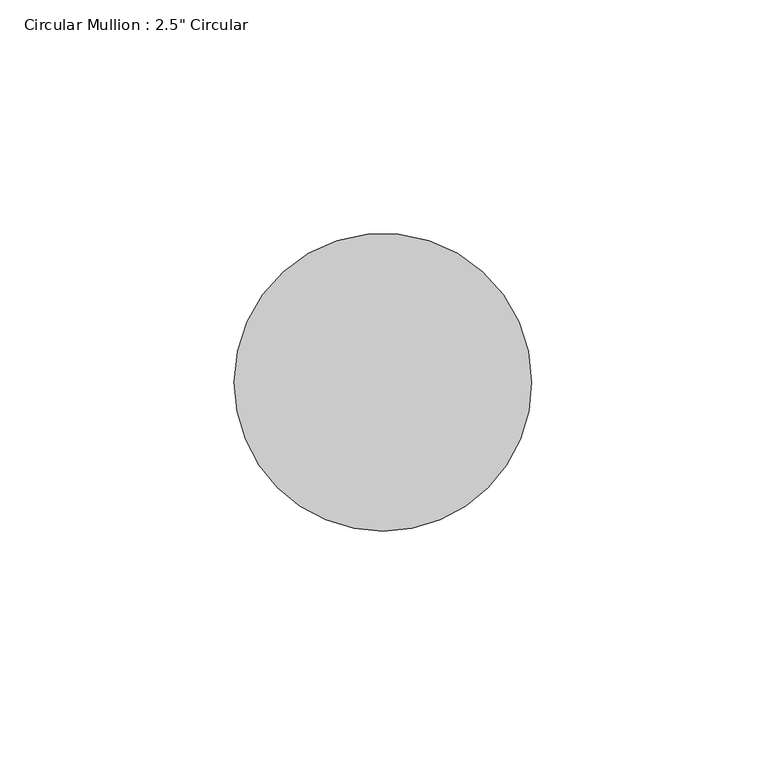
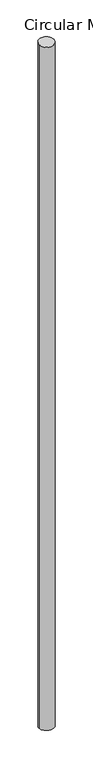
"""IFC4 building model written with IfcOpenShell, lengths in millimetres: member geometry."""

from ifc_helpers import new_model, si_unit, frame, origin, place, context, project, spatial, ellipse_curve, source, transform, mapped, element, save
from ifc_brep_helpers import plane_surface, cylinder_surface, advanced_brep


def member_c71dc75c(model_context):
    return source(origin(), model_context, "Body", "AdvancedBrep", [
        advanced_brep(
        [(-63.5, 0.0, -0.3065063), (0.0, 0.0, 0.0), (0.0, 0.0, -3069.0697045), (-63.5, 0.0, -3068.1278301)],
        [
            (0, 1, ellipse_curve(frame((-31.75, 0.0, -0.1532532), z_axis=(0.004821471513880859, 0.04703968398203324, -0.9988813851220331), x_axis=(0.10184969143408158, 0.9936753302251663, 0.04728613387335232)), 31.7855558, 31.75)),
            (1, 2),
            (2, 3, ellipse_curve(frame((-31.75, 0.0, -3068.5987673), z_axis=(0.014798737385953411, 0.06596083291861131, 0.9977124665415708), x_axis=(-0.21841368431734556, -0.973512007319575, 0.06760054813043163)), 31.8227957, 31.75)),
            (3, 0),
            (1, 0, ellipse_curve(frame((-31.75, 0.0, -0.1532532), z_axis=(0.004821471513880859, 0.04703968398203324, -0.9988813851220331), x_axis=(0.10184969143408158, 0.9936753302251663, 0.04728613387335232)), 31.7855558, 31.75)),
            (3, 2, ellipse_curve(frame((-31.75, 0.0, -3068.5987673), z_axis=(0.014798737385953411, 0.06596083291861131, 0.9977124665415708), x_axis=(-0.21841368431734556, -0.973512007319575, 0.06760054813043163)), 31.8227957, 31.75)),
        ],
        [
            cylinder_surface(frame((-31.75, 0.0, 0.0), z_axis=(0.0, 0.0, 1.0), x_axis=(1.0, 0.0, 0.0)), 31.75),
            plane_surface(frame((303.2114175, -31.0785509, 0.0), z_axis=(-0.004821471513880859, -0.04703968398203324, 0.9988813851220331), x_axis=(-0.10184969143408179, -0.9936753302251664, -0.0472861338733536))),
            plane_surface(frame((297.4067878, -66.7251269, -3069.0697045), z_axis=(-0.014798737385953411, -0.06596083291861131, -0.9977124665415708), x_axis=(-0.21841368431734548, -0.9735120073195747, 0.06760054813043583))),
        ],
        [
            (0, [[1, 2, 3, 4]]),
            (0, [[5, -4, 6, -2]]),
            (1, [[-1, -5]]),
            (2, [[-6, -3]]),
        ],
    ),
    ])


if __name__ == "__main__":
    model = new_model("IFC4")
    model_context = context("Model", 3, world=origin())
    ifc_project = project(units=[si_unit("LENGTHUNIT", "METRE", prefix="MILLI")], contexts=[model_context])
    site = spatial("IfcSite", under=ifc_project)
    building = spatial("IfcBuilding", under=site)
    placement = place(None, origin())
    member_shape = member_c71dc75c(model_context)
    element("IfcMember", 1, ObjectType="Circular Mullion : 2.5\" Circular", at=placement, inside=building, context=model_context, shape_type="MappedRepresentation", body=[
        mapped(member_shape, transform((0.0, 0.0, 0.0), x_axis=(1.0, 0.0, 0.0), y_axis=(0.0, 1.0, 0.0), z_axis=(0.0, 0.0, 1.0))),
    ])
    save(model, "model.ifc")
